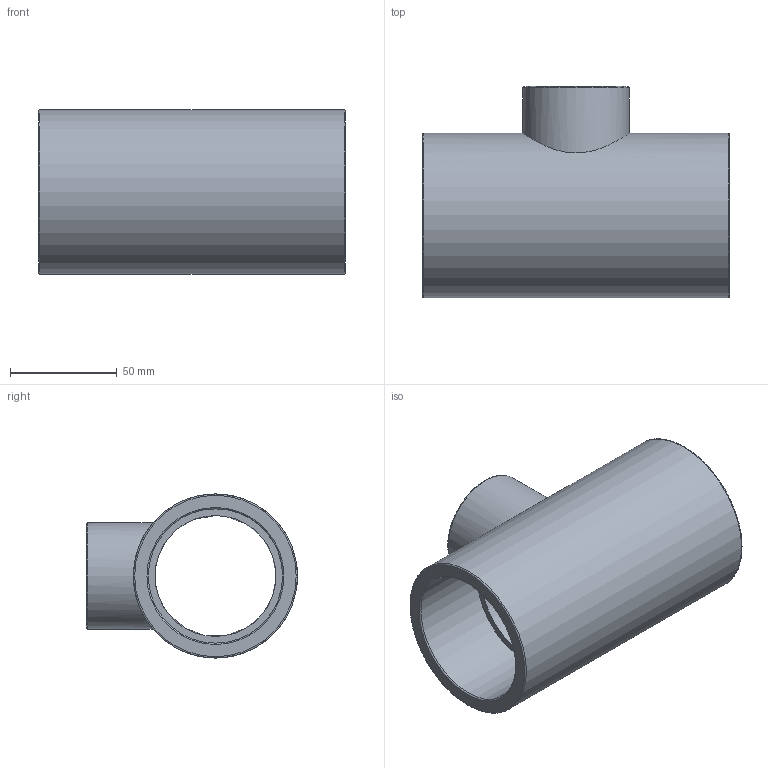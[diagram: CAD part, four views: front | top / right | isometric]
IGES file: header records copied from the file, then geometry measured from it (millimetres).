
Global section: file name: 051400063040.ipt; native system: Autodesk Inventor 2015; preprocessor: unknown; author: KIM; date: 20171207.165224; units: millimetre
Bounding box: 144 x 99 x 77 mm (x, y, z)
Volume: 268800.3 mm3; surface area: 72187.1 mm2
Topology: 1 solids, 1 shells, 19 faces, 58 edges, 44 vertices
Faces by surface type: revolution 11, plane 6, cylinder 2
Full cylindrical faces by diameter (mm): 50 x1, 77 x1
